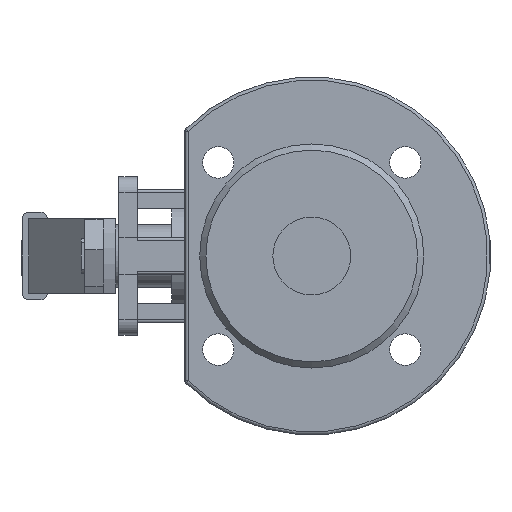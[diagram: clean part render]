
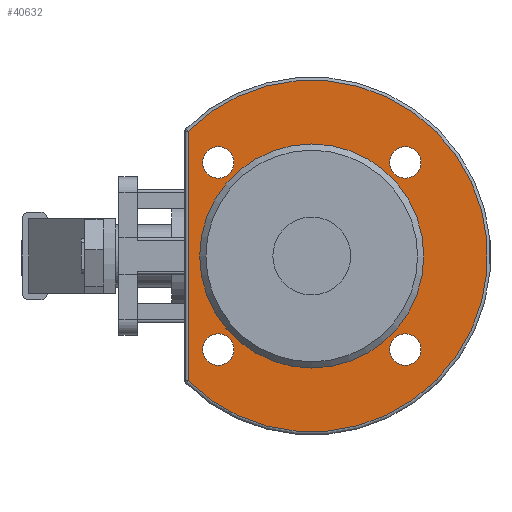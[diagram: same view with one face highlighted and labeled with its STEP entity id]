
A CAD part, left-side view. The second image highlights one B-rep face of the part: STEP entity #40632.
In plain terms, the highlighted planar face has unit normal (-1, 0, 0).
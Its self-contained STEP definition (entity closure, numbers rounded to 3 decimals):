
#40366=CARTESIAN_POINT('',(-23.,39.752,40.15));
#40367=VERTEX_POINT('',#40366);
#40383=CARTESIAN_POINT('',(-23.,39.752,-40.15));
#40384=VERTEX_POINT('',#40383);
#40392=CARTESIAN_POINT('',(-23.,39.752,-40.15));
#40393=DIRECTION('',(0.0,0.0,1.0));
#40394=VECTOR('',#40393,80.3);
#40395=LINE('',#40392,#40394);
#40396=EDGE_CURVE('',#40384,#40367,#40395,.T.);
#40562=CARTESIAN_POINT('',(-23.,46.75,0.0));
#40563=DIRECTION('',(-1.0,0.0,0.0));
#40564=DIRECTION('',(0.0,0.0,1.0));
#40565=AXIS2_PLACEMENT_3D('',#40562,#40563,#40564);
#40566=PLANE('',#40565);
#40567=ORIENTED_EDGE('',*,*,#40396,.F.);
#40568=CARTESIAN_POINT('',(-23.,0.0,0.0));
#40569=DIRECTION('',(1.0,0.0,0.0));
#40570=DIRECTION('',(0.0,-1.0,0.0));
#40571=AXIS2_PLACEMENT_3D('',#40568,#40569,#40570);
#40572=CIRCLE('',#40571,56.5);
#40573=EDGE_CURVE('',#40367,#40384,#40572,.T.);
#40574=ORIENTED_EDGE('',*,*,#40573,.F.);
#40575=EDGE_LOOP('',(#40567,#40574));
#40576=FACE_OUTER_BOUND('',#40575,.T.);
#40577=CARTESIAN_POINT('',(-23.,36.0,0.0));
#40578=VERTEX_POINT('',#40577);
#40579=CARTESIAN_POINT('',(-23.,0.0,0.0));
#40580=DIRECTION('',(1.0,0.0,0.0));
#40581=DIRECTION('',(0.0,1.0,0.0));
#40582=AXIS2_PLACEMENT_3D('',#40579,#40580,#40581);
#40583=CIRCLE('',#40582,36.0);
#40584=EDGE_CURVE('',#40578,#40578,#40583,.T.);
#40585=ORIENTED_EDGE('',*,*,#40584,.T.);
#40586=EDGE_LOOP('',(#40585));
#40587=FACE_BOUND('',#40586,.T.);
#40588=CARTESIAN_POINT('',(-23.,30.052,35.105));
#40589=VERTEX_POINT('',#40588);
#40590=CARTESIAN_POINT('',(-23.,30.052,30.052));
#40591=DIRECTION('',(1.0,0.0,0.0));
#40592=DIRECTION('',(0.0,0.0,1.0));
#40593=AXIS2_PLACEMENT_3D('',#40590,#40591,#40592);
#40594=CIRCLE('',#40593,5.053);
#40595=EDGE_CURVE('',#40589,#40589,#40594,.T.);
#40596=ORIENTED_EDGE('',*,*,#40595,.T.);
#40597=EDGE_LOOP('',(#40596));
#40598=FACE_BOUND('',#40597,.T.);
#40599=CARTESIAN_POINT('',(-23.,30.052,-24.999));
#40600=VERTEX_POINT('',#40599);
#40601=CARTESIAN_POINT('',(-23.,30.052,-30.052));
#40602=DIRECTION('',(1.0,0.0,0.0));
#40603=DIRECTION('',(0.0,0.0,1.0));
#40604=AXIS2_PLACEMENT_3D('',#40601,#40602,#40603);
#40605=CIRCLE('',#40604,5.053);
#40606=EDGE_CURVE('',#40600,#40600,#40605,.T.);
#40607=ORIENTED_EDGE('',*,*,#40606,.T.);
#40608=EDGE_LOOP('',(#40607));
#40609=FACE_BOUND('',#40608,.T.);
#40610=CARTESIAN_POINT('',(-23.,-30.052,-24.999));
#40611=VERTEX_POINT('',#40610);
#40612=CARTESIAN_POINT('',(-23.,-30.052,-30.052));
#40613=DIRECTION('',(1.0,0.0,0.0));
#40614=DIRECTION('',(0.0,0.0,1.0));
#40615=AXIS2_PLACEMENT_3D('',#40612,#40613,#40614);
#40616=CIRCLE('',#40615,5.053);
#40617=EDGE_CURVE('',#40611,#40611,#40616,.T.);
#40618=ORIENTED_EDGE('',*,*,#40617,.T.);
#40619=EDGE_LOOP('',(#40618));
#40620=FACE_BOUND('',#40619,.T.);
#40621=CARTESIAN_POINT('',(-23.,-30.052,35.105));
#40622=VERTEX_POINT('',#40621);
#40623=CARTESIAN_POINT('',(-23.,-30.052,30.052));
#40624=DIRECTION('',(1.0,0.0,0.0));
#40625=DIRECTION('',(0.0,0.0,1.0));
#40626=AXIS2_PLACEMENT_3D('',#40623,#40624,#40625);
#40627=CIRCLE('',#40626,5.053);
#40628=EDGE_CURVE('',#40622,#40622,#40627,.T.);
#40629=ORIENTED_EDGE('',*,*,#40628,.T.);
#40630=EDGE_LOOP('',(#40629));
#40631=FACE_BOUND('',#40630,.T.);
#40632=ADVANCED_FACE('',(#40576,#40587,#40598,#40609,#40620,#40631),#40566,.T.);
